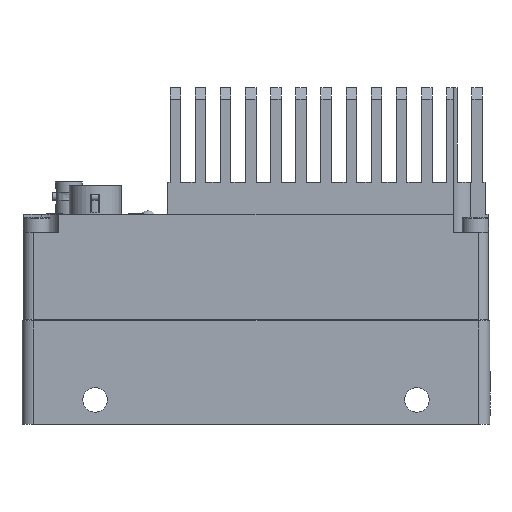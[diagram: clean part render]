
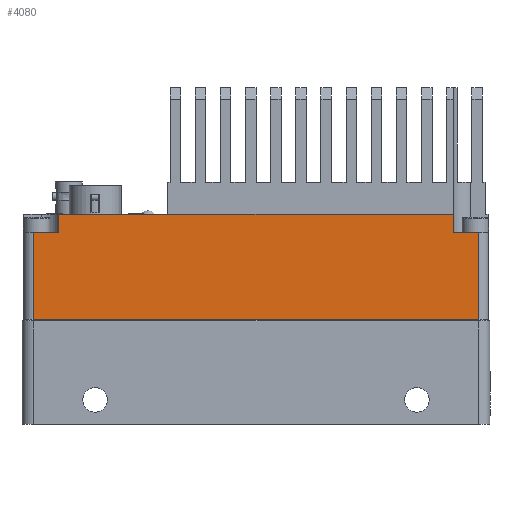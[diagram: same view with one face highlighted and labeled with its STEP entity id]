
A CAD part, front view. The second image highlights one B-rep face of the part: STEP entity #4080.
In plain terms, the highlighted planar face has unit normal (0, -1, 0).
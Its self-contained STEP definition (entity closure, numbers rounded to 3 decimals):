
#30 = CARTESIAN_POINT ( 'NONE',  ( -29.996, -36.624, 7.861 ) ) ;
#863 = CARTESIAN_POINT ( 'NONE',  ( -101.696, -36.624, 4.861 ) ) ;
#1767 = LINE ( 'NONE', #3296, #32381 ) ;
#1922 = DIRECTION ( 'NONE',  ( 0., 1., 0. ) ) ;
#2429 = DIRECTION ( 'NONE',  ( 0., 0., 1. ) ) ;
#2929 = CARTESIAN_POINT ( 'NONE',  ( -107.696, -36.624, -9.539 ) ) ;
#3296 = CARTESIAN_POINT ( 'NONE',  ( -107.696, -36.624, 5.361 ) ) ;
#4080 = ADVANCED_FACE ( 'NONE', ( #31314 ), #25212, .F. ) ;
#4192 = VECTOR ( 'NONE', #32386, 1000. ) ;
#4428 = LINE ( 'NONE', #17921, #20699 ) ;
#5458 = VECTOR ( 'NONE', #2429, 1000. ) ;
#7101 = CARTESIAN_POINT ( 'NONE',  ( -105.996, -36.624, 7.861 ) ) ;
#7387 = VERTEX_POINT ( 'NONE', #9313 ) ;
#8184 = CARTESIAN_POINT ( 'NONE',  ( -34.296, -36.624, 8.361 ) ) ;
#8658 = ORIENTED_EDGE ( 'NONE', *, *, #30138, .F. ) ;
#9313 = CARTESIAN_POINT ( 'NONE',  ( -105.996, -36.624, 5.361 ) ) ;
#11753 = VERTEX_POINT ( 'NONE', #31540 ) ;
#11910 = EDGE_CURVE ( 'NONE', #14608, #23894, #4428, .T. ) ;
#12374 = ORIENTED_EDGE ( 'NONE', *, *, #31794, .T. ) ;
#12527 = VERTEX_POINT ( 'NONE', #15559 ) ;
#12731 = VERTEX_POINT ( 'NONE', #19809 ) ;
#12865 = ORIENTED_EDGE ( 'NONE', *, *, #14863, .T. ) ;
#14608 = VERTEX_POINT ( 'NONE', #28276 ) ;
#14863 = EDGE_CURVE ( 'NONE', #7387, #12731, #32189, .T. ) ;
#15559 = CARTESIAN_POINT ( 'NONE',  ( -101.696, -36.624, 5.361 ) ) ;
#15892 = LINE ( 'NONE', #863, #24741 ) ;
#16439 = ORIENTED_EDGE ( 'NONE', *, *, #18801, .T. ) ;
#16789 = LINE ( 'NONE', #35672, #4192 ) ;
#17437 = VECTOR ( 'NONE', #28878, 1000. ) ;
#17921 = CARTESIAN_POINT ( 'NONE',  ( -28.296, -36.624, 5.361 ) ) ;
#18688 = ORIENTED_EDGE ( 'NONE', *, *, #34136, .F. ) ;
#18801 = EDGE_CURVE ( 'NONE', #23894, #28495, #34270, .T. ) ;
#18907 = VERTEX_POINT ( 'NONE', #32355 ) ;
#19404 = CARTESIAN_POINT ( 'NONE',  ( -107.696, -36.624, 7.861 ) ) ;
#19809 = CARTESIAN_POINT ( 'NONE',  ( -105.996, -36.624, -9.539 ) ) ;
#20074 = VECTOR ( 'NONE', #30159, 1000. ) ;
#20699 = VECTOR ( 'NONE', #32040, 1000. ) ;
#20784 = EDGE_CURVE ( 'NONE', #12527, #11753, #15892, .T. ) ;
#21063 = ORIENTED_EDGE ( 'NONE', *, *, #11910, .T. ) ;
#22963 = AXIS2_PLACEMENT_3D ( 'NONE', #19404, #1922, #27716 ) ;
#23530 = VECTOR ( 'NONE', #25465, 1000. ) ;
#23894 = VERTEX_POINT ( 'NONE', #30151 ) ;
#24741 = VECTOR ( 'NONE', #32937, 1000. ) ;
#25212 = PLANE ( 'NONE',  #22963 ) ;
#25465 = DIRECTION ( 'NONE',  ( 1., 0., 0. ) ) ;
#26203 = DIRECTION ( 'NONE',  ( 1., 0., 0. ) ) ;
#26498 = LINE ( 'NONE', #30, #17437 ) ;
#27716 = DIRECTION ( 'NONE',  ( 0., 0., 1. ) ) ;
#27806 = EDGE_LOOP ( 'NONE', ( #8658, #30595, #18688, #12865, #12374, #28759, #21063, #16439 ) ) ;
#28276 = CARTESIAN_POINT ( 'NONE',  ( -29.996, -36.624, 5.361 ) ) ;
#28495 = VERTEX_POINT ( 'NONE', #8184 ) ;
#28759 = ORIENTED_EDGE ( 'NONE', *, *, #29385, .T. ) ;
#28878 = DIRECTION ( 'NONE',  ( 0., 0., 1. ) ) ;
#29385 = EDGE_CURVE ( 'NONE', #18907, #14608, #26498, .T. ) ;
#30138 = EDGE_CURVE ( 'NONE', #11753, #28495, #16789, .T. ) ;
#30151 = CARTESIAN_POINT ( 'NONE',  ( -34.296, -36.624, 5.361 ) ) ;
#30159 = DIRECTION ( 'NONE',  ( 0., 0., -1. ) ) ;
#30595 = ORIENTED_EDGE ( 'NONE', *, *, #20784, .F. ) ;
#31314 = FACE_OUTER_BOUND ( 'NONE', #27806, .T. ) ;
#31540 = CARTESIAN_POINT ( 'NONE',  ( -101.696, -36.624, 8.361 ) ) ;
#31744 = CARTESIAN_POINT ( 'NONE',  ( -34.296, -36.624, 4.861 ) ) ;
#31794 = EDGE_CURVE ( 'NONE', #12731, #18907, #34271, .T. ) ;
#32040 = DIRECTION ( 'NONE',  ( -1., 0., 0. ) ) ;
#32189 = LINE ( 'NONE', #7101, #20074 ) ;
#32355 = CARTESIAN_POINT ( 'NONE',  ( -29.996, -36.624, -9.539 ) ) ;
#32381 = VECTOR ( 'NONE', #26203, 1000. ) ;
#32386 = DIRECTION ( 'NONE',  ( 1., 0., 0. ) ) ;
#32937 = DIRECTION ( 'NONE',  ( 0., 0., 1. ) ) ;
#34136 = EDGE_CURVE ( 'NONE', #7387, #12527, #1767, .T. ) ;
#34270 = LINE ( 'NONE', #31744, #5458 ) ;
#34271 = LINE ( 'NONE', #2929, #23530 ) ;
#35672 = CARTESIAN_POINT ( 'NONE',  ( -107.696, -36.624, 8.361 ) ) ;
